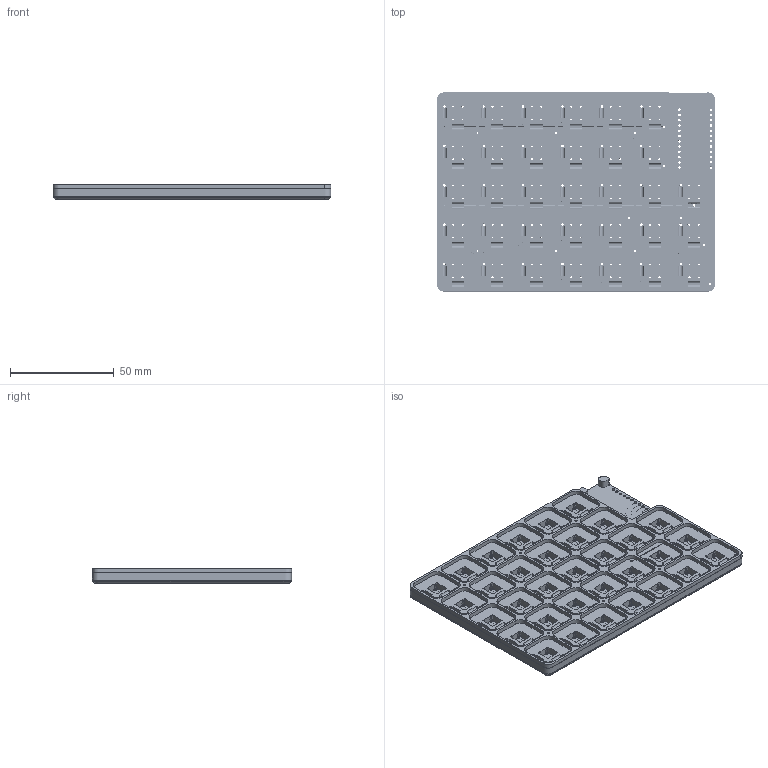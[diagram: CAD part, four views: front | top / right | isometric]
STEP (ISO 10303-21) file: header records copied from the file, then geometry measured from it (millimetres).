
FILE_DESCRIPTION(/* description */ (''),/* implementation_level */ '2;1');
FILE_NAME(/* name */ 'base',/* time_stamp */ '2020-05-12T21:31:54+02:00',/* author */ (''),/* organization */ (''),/* preprocessor_version */ 'ST-DEVELOPER v10',/* originating_system */ '',/* authorisation */ '');
FILE_SCHEMA (('CONFIG_CONTROL_DESIGN'));
Products named in the file (1): 1
Bounding box: 134 x 96 x 7.1 mm (x, y, z)
Volume: 73963.2 mm3; surface area: 82215.4 mm2
Topology: 5 solids, 6 shells, 2806 faces, 8512 edges, 5545 vertices
Faces by surface type: bspline 1869, plane 937
Entity records: 132028 total; most frequent: CARTESIAN_POINT 82895, ORIENTED_EDGE 17022, EDGE_CURVE 8512, VERTEX_POINT 5545, B_SPLINE_CURVE_WITH_KNOTS 4947, EDGE_LOOP 3352, ADVANCED_FACE 2806, FACE_OUTER_BOUND 2806
